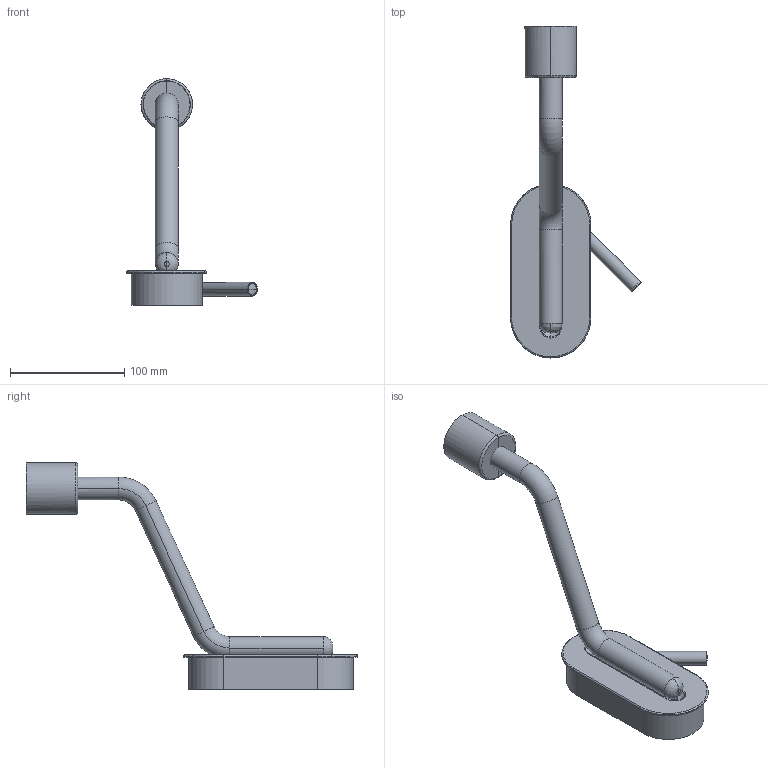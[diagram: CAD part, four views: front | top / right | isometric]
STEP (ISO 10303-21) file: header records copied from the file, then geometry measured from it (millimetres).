
FILE_DESCRIPTION(/* description */ (''),/* implementation_level */ '2;1');
FILE_NAME(/* name */ 'C:\Users\FrancoSartori\Documents\FARO\01_En Proceso\00_ETERNA\03_Publicación\24007.stp',/* time_stamp */ '2021-06-01T11:10:21+02:00',/* author */ ('FrancoSartori'),/* organization */ (''),/* preprocessor_version */ 'ST-DEVELOPER v18.1',/* originating_system */ 'AutoCAD Mechanical',/* authorisation */ '');
FILE_SCHEMA (('AUTOMOTIVE_DESIGN { 1 0 10303 214 3 1 1 }'));
Length unit declared in the file: millimetre
Products named in the file (2): Product; 24007-10_ 24007-11_ 24007-12_ - structure-572884-_3D_
Assembly tree (1 placements, depth 2):
  Product
    24007-10_ 24007-11_ 24007-12_ - structure-572884-_3D_
Bounding box: 114.17 x 289.94 x 197.94 mm (x, y, z)
Volume: 153975.2 mm3; surface area: 87056 mm2
Topology: 7 solids, 7 shells, 145 faces, 357 edges, 232 vertices
Faces by surface type: plane 55, cylinder 48, torus 22, bspline 18, sphere 2
Entity records: 5240 total; most frequent: CARTESIAN_POINT 2061, ORIENTED_EDGE 714, DIRECTION 523, EDGE_CURVE 357, VERTEX_POINT 232, AXIS2_PLACEMENT_3D 190, EDGE_LOOP 157, B_SPLINE_CURVE_WITH_KNOTS 153
